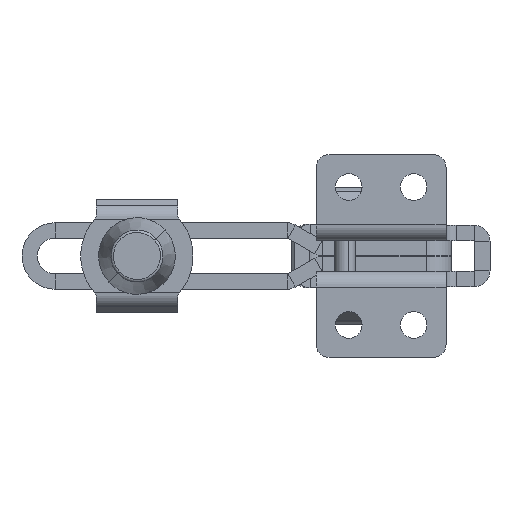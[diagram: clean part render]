
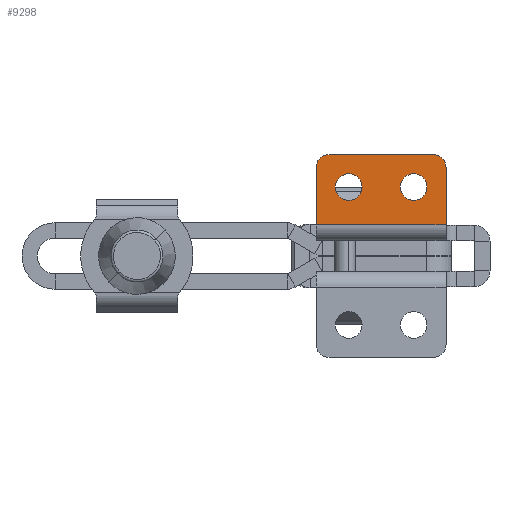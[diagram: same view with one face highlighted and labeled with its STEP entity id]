
A CAD part, front view. The second image highlights one B-rep face of the part: STEP entity #9298.
In plain terms, the highlighted planar face has unit normal (0, -1, 0).
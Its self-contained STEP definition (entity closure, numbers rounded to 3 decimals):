
#3 = CARTESIAN_POINT ( 'NONE',  ( -11.95, 0., 13.5 ) ) ;
#289 = EDGE_CURVE ( 'NONE', #1521, #3316, #2859, .T. ) ;
#407 = VECTOR ( 'NONE', #6793, 1000. ) ;
#716 = LINE ( 'NONE', #1044, #10089 ) ;
#818 = CARTESIAN_POINT ( 'NONE',  ( -11.95, 0., 13.5 ) ) ;
#878 = FACE_OUTER_BOUND ( 'NONE', #1267, .T. ) ;
#908 = DIRECTION ( 'NONE',  ( 0., 0., 1. ) ) ;
#943 = CARTESIAN_POINT ( 'NONE',  ( 0., 0., 19.85 ) ) ;
#1044 = CARTESIAN_POINT ( 'NONE',  ( -5.6, 0., 0. ) ) ;
#1139 = CARTESIAN_POINT ( 'NONE',  ( -11.95, 0., 10.9 ) ) ;
#1224 = ORIENTED_EDGE ( 'NONE', *, *, #11579, .T. ) ;
#1267 = EDGE_LOOP ( 'NONE', ( #3113, #6912, #7792, #3415, #11330, #7420 ) ) ;
#1465 = DIRECTION ( 'NONE',  ( 0., 0., 1. ) ) ;
#1521 = VERTEX_POINT ( 'NONE', #10922 ) ;
#1721 = AXIS2_PLACEMENT_3D ( 'NONE', #3, #6383, #908 ) ;
#1746 = DIRECTION ( 'NONE',  ( 0., 0., 1. ) ) ;
#1898 = CARTESIAN_POINT ( 'NONE',  ( -24.65, 0., 13.5 ) ) ;
#2007 = DIRECTION ( 'NONE',  ( 0., -1., 0. ) ) ;
#2015 = AXIS2_PLACEMENT_3D ( 'NONE', #2374, #8728, #3308 ) ;
#2087 = DIRECTION ( 'NONE',  ( 0., 1., 0. ) ) ;
#2094 = EDGE_CURVE ( 'NONE', #7991, #1521, #11149, .T. ) ;
#2348 = PLANE ( 'NONE',  #3385 ) ;
#2374 = CARTESIAN_POINT ( 'NONE',  ( -28.5, 0., 17.35 ) ) ;
#2474 = VERTEX_POINT ( 'NONE', #1139 ) ;
#2695 = VECTOR ( 'NONE', #10407, 1000. ) ;
#2815 = DIRECTION ( 'NONE',  ( 0., 0., 1. ) ) ;
#2859 = LINE ( 'NONE', #6276, #407 ) ;
#2878 = VERTEX_POINT ( 'NONE', #7440 ) ;
#2936 = EDGE_CURVE ( 'NONE', #11577, #7754, #3103, .T. ) ;
#3103 = CIRCLE ( 'NONE', #4160, 2.6 ) ;
#3113 = ORIENTED_EDGE ( 'NONE', *, *, #9467, .T. ) ;
#3308 = DIRECTION ( 'NONE',  ( 0., 0., 1. ) ) ;
#3316 = VERTEX_POINT ( 'NONE', #8931 ) ;
#3385 = AXIS2_PLACEMENT_3D ( 'NONE', #5112, #6935, #1465 ) ;
#3415 = ORIENTED_EDGE ( 'NONE', *, *, #2094, .T. ) ;
#3520 = ORIENTED_EDGE ( 'NONE', *, *, #8930, .T. ) ;
#3630 = CARTESIAN_POINT ( 'NONE',  ( -24.65, 0., 16.1 ) ) ;
#3704 = CARTESIAN_POINT ( 'NONE',  ( -28.5, 0., 19.85 ) ) ;
#3708 = DIRECTION ( 'NONE',  ( -1., 0., 0. ) ) ;
#3887 = AXIS2_PLACEMENT_3D ( 'NONE', #7475, #2007, #8366 ) ;
#4160 = AXIS2_PLACEMENT_3D ( 'NONE', #7548, #2087, #8445 ) ;
#4792 = CARTESIAN_POINT ( 'NONE',  ( -5.6, 0., 17.35 ) ) ;
#5112 = CARTESIAN_POINT ( 'NONE',  ( 0., 0., 0. ) ) ;
#5296 = CIRCLE ( 'NONE', #7506, 2.6 ) ;
#5300 = LINE ( 'NONE', #943, #7698 ) ;
#5482 = EDGE_LOOP ( 'NONE', ( #7324, #1224 ) ) ;
#6121 = EDGE_CURVE ( 'NONE', #2878, #2474, #6898, .T. ) ;
#6276 = CARTESIAN_POINT ( 'NONE',  ( -31., 0., 0. ) ) ;
#6383 = DIRECTION ( 'NONE',  ( 0., 1., 0. ) ) ;
#6405 = CARTESIAN_POINT ( 'NONE',  ( -5.6, 0., 6.1 ) ) ;
#6793 = DIRECTION ( 'NONE',  ( 0., 0., -1. ) ) ;
#6888 = VERTEX_POINT ( 'NONE', #7434 ) ;
#6898 = CIRCLE ( 'NONE', #10829, 2.6 ) ;
#6901 = EDGE_CURVE ( 'NONE', #7608, #6888, #11496, .T. ) ;
#6912 = ORIENTED_EDGE ( 'NONE', *, *, #6901, .T. ) ;
#6935 = DIRECTION ( 'NONE',  ( 0., 1., 0. ) ) ;
#7013 = FACE_BOUND ( 'NONE', #11713, .T. ) ;
#7205 = DIRECTION ( 'NONE',  ( 0., 1., 0. ) ) ;
#7324 = ORIENTED_EDGE ( 'NONE', *, *, #6121, .T. ) ;
#7398 = CIRCLE ( 'NONE', #1721, 2.6 ) ;
#7420 = ORIENTED_EDGE ( 'NONE', *, *, #11283, .F. ) ;
#7434 = CARTESIAN_POINT ( 'NONE',  ( -8.1, 0., 19.85 ) ) ;
#7440 = CARTESIAN_POINT ( 'NONE',  ( -11.95, 0., 16.1 ) ) ;
#7475 = CARTESIAN_POINT ( 'NONE',  ( -8.1, 0., 17.35 ) ) ;
#7506 = AXIS2_PLACEMENT_3D ( 'NONE', #1898, #8254, #2815 ) ;
#7548 = CARTESIAN_POINT ( 'NONE',  ( -24.65, 0., 13.5 ) ) ;
#7608 = VERTEX_POINT ( 'NONE', #4792 ) ;
#7698 = VECTOR ( 'NONE', #3708, 1000. ) ;
#7754 = VERTEX_POINT ( 'NONE', #11300 ) ;
#7792 = ORIENTED_EDGE ( 'NONE', *, *, #10051, .T. ) ;
#7991 = VERTEX_POINT ( 'NONE', #3704 ) ;
#8254 = DIRECTION ( 'NONE',  ( 0., 1., 0. ) ) ;
#8366 = DIRECTION ( 'NONE',  ( 0., 0., 1. ) ) ;
#8445 = DIRECTION ( 'NONE',  ( 0., 0., 1. ) ) ;
#8728 = DIRECTION ( 'NONE',  ( 0., -1., 0. ) ) ;
#8890 = VERTEX_POINT ( 'NONE', #6405 ) ;
#8930 = EDGE_CURVE ( 'NONE', #7754, #11577, #5296, .T. ) ;
#8931 = CARTESIAN_POINT ( 'NONE',  ( -31., 0., 6.1 ) ) ;
#9212 = DIRECTION ( 'NONE',  ( 0., 0., 1. ) ) ;
#9298 = ADVANCED_FACE ( 'NONE', ( #7013, #9392, #878 ), #2348, .F. ) ;
#9392 = FACE_BOUND ( 'NONE', #5482, .T. ) ;
#9467 = EDGE_CURVE ( 'NONE', #8890, #7608, #716, .T. ) ;
#9898 = LINE ( 'NONE', #10373, #2695 ) ;
#10051 = EDGE_CURVE ( 'NONE', #6888, #7991, #5300, .T. ) ;
#10089 = VECTOR ( 'NONE', #9212, 1000. ) ;
#10373 = CARTESIAN_POINT ( 'NONE',  ( -31., 0., 6.1 ) ) ;
#10407 = DIRECTION ( 'NONE',  ( -1., 0., 0. ) ) ;
#10800 = ORIENTED_EDGE ( 'NONE', *, *, #2936, .T. ) ;
#10829 = AXIS2_PLACEMENT_3D ( 'NONE', #818, #7205, #1746 ) ;
#10922 = CARTESIAN_POINT ( 'NONE',  ( -31., 0., 17.35 ) ) ;
#11149 = CIRCLE ( 'NONE', #2015, 2.5 ) ;
#11283 = EDGE_CURVE ( 'NONE', #8890, #3316, #9898, .T. ) ;
#11300 = CARTESIAN_POINT ( 'NONE',  ( -24.65, 0., 10.9 ) ) ;
#11330 = ORIENTED_EDGE ( 'NONE', *, *, #289, .T. ) ;
#11496 = CIRCLE ( 'NONE', #3887, 2.5 ) ;
#11577 = VERTEX_POINT ( 'NONE', #3630 ) ;
#11579 = EDGE_CURVE ( 'NONE', #2474, #2878, #7398, .T. ) ;
#11713 = EDGE_LOOP ( 'NONE', ( #10800, #3520 ) ) ;
